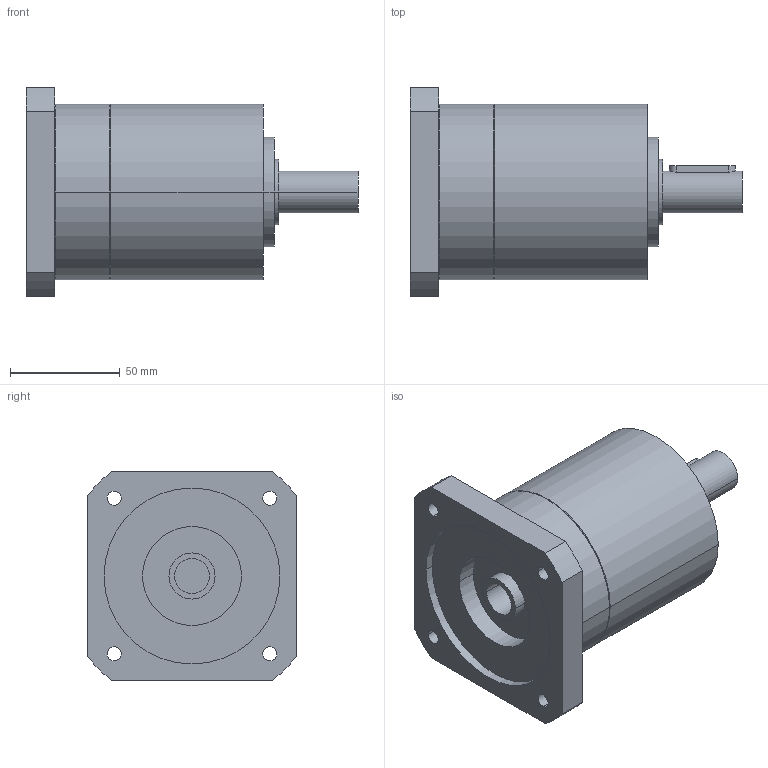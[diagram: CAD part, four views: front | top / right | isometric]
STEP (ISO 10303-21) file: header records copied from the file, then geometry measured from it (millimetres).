
FILE_DESCRIPTION(('CoCreate Modeling STEP Export'),'2;1');
FILE_NAME('GPR100_ig-3-4-5-6_19_B14_15.87_P06.stp','2014-08-26T10:07:35',(''),(''),'CoCreate Modeling STEP processor for AP214 (Solid Model)','CoCreate Modeling 16.00C 25-Feb-2009 (C) Parametric Technology GmbH','');
FILE_SCHEMA(('AUTOMOTIVE_DESIGN { 1 0 10303 214 1 1 1 1 }'));
Length unit declared in the file: millimetre
Products named in the file (2): GPR100_ig-3-4-5-6_19_B14_15.87_P06
Assembly tree (1 placements, depth 2):
  GPR100_ig-3-4-5-6_19_B14_15.87_P06
    GPR100_ig-3-4-5-6_19_B14_15.87_P06
Bounding box: 151 x 95 x 95 mm (x, y, z)
Volume: 570574.4 mm3; surface area: 56461.4 mm2
Topology: 1 solids, 1 shells, 70 faces, 187 edges, 131 vertices
Faces by surface type: cylinder 42, plane 22, cone 6
Entity records: 1934 total; most frequent: ORIENTED_EDGE 370, CARTESIAN_POINT 359, DIRECTION 262, EDGE_CURVE 185, VERTEX_POINT 131, AXIS2_PLACEMENT_3D 98, EDGE_LOOP 92, FACE_OUTER_BOUND 70
